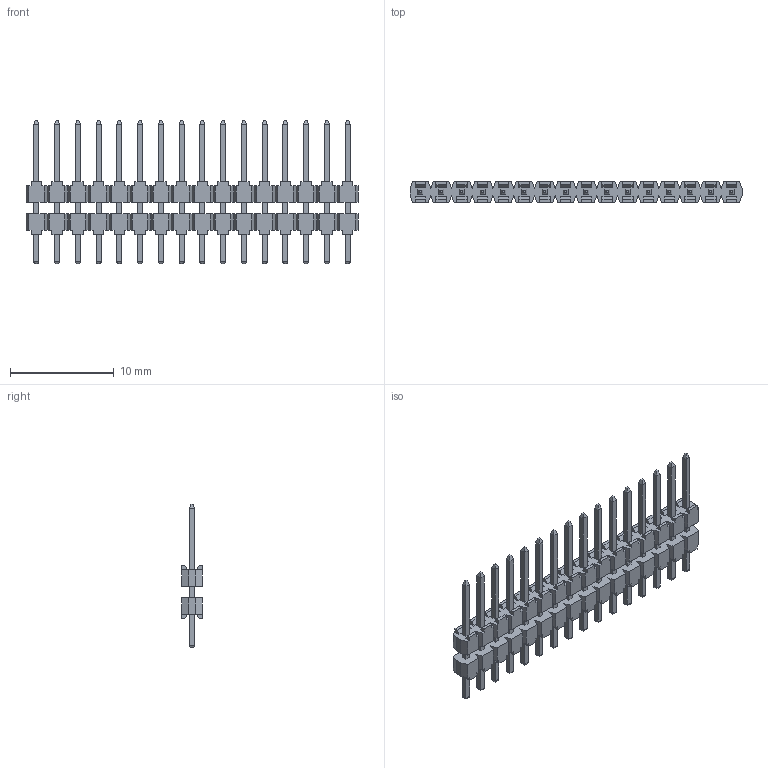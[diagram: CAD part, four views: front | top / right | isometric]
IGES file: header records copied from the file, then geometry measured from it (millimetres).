
Global section: file name: N:\GOLF_VI_2mm_UGII\9514XX_906XX06_AR\951416-9061106-AR.igs; native system: NX V3.0; preprocessor: UGS NX IGES V4.0; date: 20070314.142656; units: millimetre
Bounding box: 32 x 2 x 13.8 mm (x, y, z)
Surface area: 925.2 mm2 (no closed solid volume)
Topology: 0 solids, 0 shells, 808 faces, 4377 edges, 4377 vertices
Faces by surface type: bspline 808
